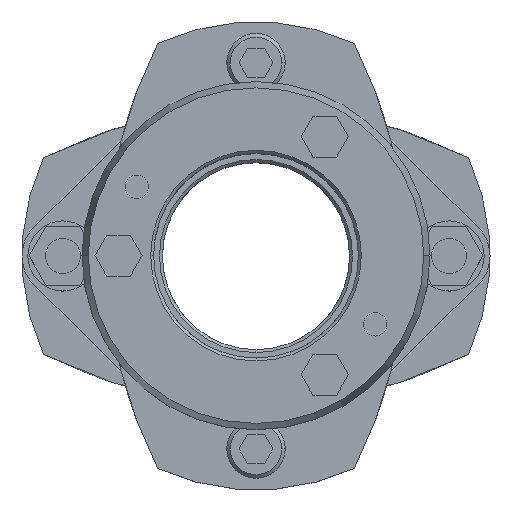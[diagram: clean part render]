
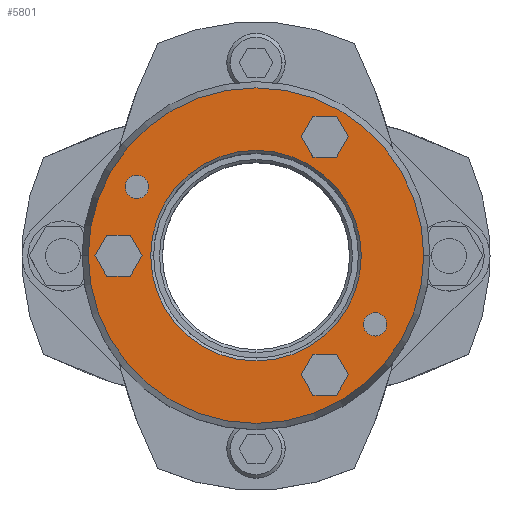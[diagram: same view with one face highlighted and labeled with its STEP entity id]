
A CAD part, top view. The second image highlights one B-rep face of the part: STEP entity #5801.
In plain terms, the highlighted planar face has unit normal (0, 0, 1).
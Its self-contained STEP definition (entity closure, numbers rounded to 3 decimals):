
#875=CARTESIAN_POINT('',(-18.,0.,35.875));
#876=VERTEX_POINT('',#875);
#892=CARTESIAN_POINT('',(18.,0.,35.875));
#893=VERTEX_POINT('',#892);
#900=CARTESIAN_POINT('',(0.,0.,35.875));
#901=DIRECTION('',(0.0,0.0,1.0));
#902=DIRECTION('',(-1.0,0.0,0.0));
#903=AXIS2_PLACEMENT_3D('',#900,#901,#902);
#904=CIRCLE('',#903,18.0);
#905=EDGE_CURVE('',#893,#876,#904,.T.);
#1063=CARTESIAN_POINT('',(28.678,0.,35.875));
#1064=VERTEX_POINT('',#1063);
#1071=CARTESIAN_POINT('',(-28.678,0.,35.875));
#1072=VERTEX_POINT('',#1071);
#1073=CARTESIAN_POINT('',(0.,0.,35.875));
#1074=DIRECTION('',(0.0,0.0,-1.0));
#1075=DIRECTION('',(1.0,0.0,0.0));
#1076=AXIS2_PLACEMENT_3D('',#1073,#1074,#1075);
#1077=CIRCLE('',#1076,28.678);
#1078=EDGE_CURVE('',#1064,#1072,#1077,.T.);
#1191=CARTESIAN_POINT('',(18.352,-11.75,35.875));
#1192=VERTEX_POINT('',#1191);
#1208=CARTESIAN_POINT('',(22.352,-11.75,35.875));
#1209=VERTEX_POINT('',#1208);
#1216=CARTESIAN_POINT('',(20.352,-11.75,35.875));
#1217=DIRECTION('',(0.0,0.0,-1.0));
#1218=DIRECTION('',(-1.0,0.0,0.0));
#1219=AXIS2_PLACEMENT_3D('',#1216,#1217,#1218);
#1220=CIRCLE('',#1219,2.0);
#1221=EDGE_CURVE('',#1192,#1209,#1220,.T.);
#1233=CARTESIAN_POINT('',(-22.352,11.75,35.875));
#1234=VERTEX_POINT('',#1233);
#1250=CARTESIAN_POINT('',(-18.352,11.75,35.875));
#1251=VERTEX_POINT('',#1250);
#1258=CARTESIAN_POINT('',(-20.352,11.75,35.875));
#1259=DIRECTION('',(0.0,0.0,-1.0));
#1260=DIRECTION('',(-1.0,0.0,0.0));
#1261=AXIS2_PLACEMENT_3D('',#1258,#1259,#1260);
#1262=CIRCLE('',#1261,2.0);
#1263=EDGE_CURVE('',#1234,#1251,#1262,.T.);
#4814=CARTESIAN_POINT('',(-20.352,11.75,35.875));
#4815=DIRECTION('',(0.0,0.0,-1.0));
#4816=DIRECTION('',(-1.0,0.0,0.0));
#4817=AXIS2_PLACEMENT_3D('',#4814,#4815,#4816);
#4818=CIRCLE('',#4817,2.0);
#4819=EDGE_CURVE('',#1251,#1234,#4818,.T.);
#4848=CARTESIAN_POINT('',(20.352,-11.75,35.875));
#4849=DIRECTION('',(0.0,0.0,-1.0));
#4850=DIRECTION('',(-1.0,0.0,0.0));
#4851=AXIS2_PLACEMENT_3D('',#4848,#4849,#4850);
#4852=CIRCLE('',#4851,2.0);
#4853=EDGE_CURVE('',#1209,#1192,#4852,.T.);
#4891=CARTESIAN_POINT('',(-27.541,0.,35.875));
#4892=VERTEX_POINT('',#4891);
#4899=CARTESIAN_POINT('',(-25.521,-3.5,35.875));
#4900=VERTEX_POINT('',#4899);
#4901=CARTESIAN_POINT('',(-25.521,-3.5,35.875));
#4902=DIRECTION('',(-0.5,0.866,0.0));
#4903=VECTOR('',#4902,4.041);
#4904=LINE('',#4901,#4903);
#4905=EDGE_CURVE('',#4900,#4892,#4904,.T.);
#4929=CARTESIAN_POINT('',(-25.521,3.5,35.875));
#4930=VERTEX_POINT('',#4929);
#4937=CARTESIAN_POINT('',(-27.541,0.,35.875));
#4938=DIRECTION('',(0.5,0.866,0.0));
#4939=VECTOR('',#4938,4.041);
#4940=LINE('',#4937,#4939);
#4941=EDGE_CURVE('',#4892,#4930,#4940,.T.);
#4960=CARTESIAN_POINT('',(-21.479,3.5,35.875));
#4961=VERTEX_POINT('',#4960);
#4968=CARTESIAN_POINT('',(-25.521,3.5,35.875));
#4969=DIRECTION('',(1.0,0.0,0.0));
#4970=VECTOR('',#4969,4.041);
#4971=LINE('',#4968,#4970);
#4972=EDGE_CURVE('',#4930,#4961,#4971,.T.);
#4991=CARTESIAN_POINT('',(-19.459,0.,35.875));
#4992=VERTEX_POINT('',#4991);
#4999=CARTESIAN_POINT('',(-21.479,3.5,35.875));
#5000=DIRECTION('',(0.5,-0.866,0.0));
#5001=VECTOR('',#5000,4.041);
#5002=LINE('',#4999,#5001);
#5003=EDGE_CURVE('',#4961,#4992,#5002,.T.);
#5022=CARTESIAN_POINT('',(-21.479,-3.5,35.875));
#5023=VERTEX_POINT('',#5022);
#5030=CARTESIAN_POINT('',(-19.459,0.,35.875));
#5031=DIRECTION('',(-0.5,-0.866,0.0));
#5032=VECTOR('',#5031,4.041);
#5033=LINE('',#5030,#5032);
#5034=EDGE_CURVE('',#4992,#5023,#5033,.T.);
#5052=CARTESIAN_POINT('',(-21.479,-3.5,35.875));
#5053=DIRECTION('',(-1.0,0.0,0.0));
#5054=VECTOR('',#5053,4.041);
#5055=LINE('',#5052,#5054);
#5056=EDGE_CURVE('',#5023,#4900,#5055,.T.);
#5091=CARTESIAN_POINT('',(7.709,20.352,35.875));
#5092=VERTEX_POINT('',#5091);
#5099=CARTESIAN_POINT('',(9.729,16.852,35.875));
#5100=VERTEX_POINT('',#5099);
#5101=CARTESIAN_POINT('',(9.729,16.852,35.875));
#5102=DIRECTION('',(-0.5,0.866,0.0));
#5103=VECTOR('',#5102,4.041);
#5104=LINE('',#5101,#5103);
#5105=EDGE_CURVE('',#5100,#5092,#5104,.T.);
#5129=CARTESIAN_POINT('',(9.729,23.852,35.875));
#5130=VERTEX_POINT('',#5129);
#5137=CARTESIAN_POINT('',(7.709,20.352,35.875));
#5138=DIRECTION('',(0.5,0.866,0.0));
#5139=VECTOR('',#5138,4.041);
#5140=LINE('',#5137,#5139);
#5141=EDGE_CURVE('',#5092,#5130,#5140,.T.);
#5160=CARTESIAN_POINT('',(13.771,23.852,35.875));
#5161=VERTEX_POINT('',#5160);
#5168=CARTESIAN_POINT('',(9.729,23.852,35.875));
#5169=DIRECTION('',(1.0,0.0,0.0));
#5170=VECTOR('',#5169,4.041);
#5171=LINE('',#5168,#5170);
#5172=EDGE_CURVE('',#5130,#5161,#5171,.T.);
#5191=CARTESIAN_POINT('',(15.791,20.352,35.875));
#5192=VERTEX_POINT('',#5191);
#5199=CARTESIAN_POINT('',(13.771,23.852,35.875));
#5200=DIRECTION('',(0.5,-0.866,0.0));
#5201=VECTOR('',#5200,4.041);
#5202=LINE('',#5199,#5201);
#5203=EDGE_CURVE('',#5161,#5192,#5202,.T.);
#5222=CARTESIAN_POINT('',(13.771,16.852,35.875));
#5223=VERTEX_POINT('',#5222);
#5230=CARTESIAN_POINT('',(15.791,20.352,35.875));
#5231=DIRECTION('',(-0.5,-0.866,0.0));
#5232=VECTOR('',#5231,4.041);
#5233=LINE('',#5230,#5232);
#5234=EDGE_CURVE('',#5192,#5223,#5233,.T.);
#5252=CARTESIAN_POINT('',(13.771,16.852,35.875));
#5253=DIRECTION('',(-1.0,0.0,0.0));
#5254=VECTOR('',#5253,4.041);
#5255=LINE('',#5252,#5254);
#5256=EDGE_CURVE('',#5223,#5100,#5255,.T.);
#5291=CARTESIAN_POINT('',(7.709,-20.352,35.875));
#5292=VERTEX_POINT('',#5291);
#5299=CARTESIAN_POINT('',(9.729,-23.852,35.875));
#5300=VERTEX_POINT('',#5299);
#5301=CARTESIAN_POINT('',(9.729,-23.852,35.875));
#5302=DIRECTION('',(-0.5,0.866,0.0));
#5303=VECTOR('',#5302,4.041);
#5304=LINE('',#5301,#5303);
#5305=EDGE_CURVE('',#5300,#5292,#5304,.T.);
#5329=CARTESIAN_POINT('',(9.729,-16.852,35.875));
#5330=VERTEX_POINT('',#5329);
#5337=CARTESIAN_POINT('',(7.709,-20.352,35.875));
#5338=DIRECTION('',(0.5,0.866,0.0));
#5339=VECTOR('',#5338,4.041);
#5340=LINE('',#5337,#5339);
#5341=EDGE_CURVE('',#5292,#5330,#5340,.T.);
#5360=CARTESIAN_POINT('',(13.771,-16.852,35.875));
#5361=VERTEX_POINT('',#5360);
#5368=CARTESIAN_POINT('',(9.729,-16.852,35.875));
#5369=DIRECTION('',(1.0,0.0,0.0));
#5370=VECTOR('',#5369,4.041);
#5371=LINE('',#5368,#5370);
#5372=EDGE_CURVE('',#5330,#5361,#5371,.T.);
#5391=CARTESIAN_POINT('',(15.791,-20.352,35.875));
#5392=VERTEX_POINT('',#5391);
#5399=CARTESIAN_POINT('',(13.771,-16.852,35.875));
#5400=DIRECTION('',(0.5,-0.866,0.0));
#5401=VECTOR('',#5400,4.041);
#5402=LINE('',#5399,#5401);
#5403=EDGE_CURVE('',#5361,#5392,#5402,.T.);
#5422=CARTESIAN_POINT('',(13.771,-23.852,35.875));
#5423=VERTEX_POINT('',#5422);
#5430=CARTESIAN_POINT('',(15.791,-20.352,35.875));
#5431=DIRECTION('',(-0.5,-0.866,0.0));
#5432=VECTOR('',#5431,4.041);
#5433=LINE('',#5430,#5432);
#5434=EDGE_CURVE('',#5392,#5423,#5433,.T.);
#5452=CARTESIAN_POINT('',(13.771,-23.852,35.875));
#5453=DIRECTION('',(-1.0,0.0,0.0));
#5454=VECTOR('',#5453,4.041);
#5455=LINE('',#5452,#5454);
#5456=EDGE_CURVE('',#5423,#5300,#5455,.T.);
#5740=CARTESIAN_POINT('',(0.,0.,35.875));
#5741=DIRECTION('',(0.0,0.0,-1.0));
#5742=DIRECTION('',(1.0,0.0,0.0));
#5743=AXIS2_PLACEMENT_3D('',#5740,#5741,#5742);
#5744=CIRCLE('',#5743,28.678);
#5745=EDGE_CURVE('',#1072,#1064,#5744,.T.);
#5750=CARTESIAN_POINT('',(-2.364,0.,35.875));
#5751=DIRECTION('',(0.0,0.0,1.0));
#5752=DIRECTION('',(-1.0,0.0,0.0));
#5753=AXIS2_PLACEMENT_3D('',#5750,#5751,#5752);
#5754=PLANE('',#5753);
#5755=ORIENTED_EDGE('',*,*,#5745,.F.);
#5756=ORIENTED_EDGE('',*,*,#1078,.F.);
#5757=EDGE_LOOP('',(#5755,#5756));
#5758=FACE_OUTER_BOUND('',#5757,.T.);
#5759=ORIENTED_EDGE('',*,*,#1263,.T.);
#5760=ORIENTED_EDGE('',*,*,#4819,.T.);
#5761=EDGE_LOOP('',(#5759,#5760));
#5762=FACE_BOUND('',#5761,.T.);
#5763=ORIENTED_EDGE('',*,*,#1221,.T.);
#5764=ORIENTED_EDGE('',*,*,#4853,.T.);
#5765=EDGE_LOOP('',(#5763,#5764));
#5766=FACE_BOUND('',#5765,.T.);
#5767=ORIENTED_EDGE('',*,*,#4905,.T.);
#5768=ORIENTED_EDGE('',*,*,#4941,.T.);
#5769=ORIENTED_EDGE('',*,*,#4972,.T.);
#5770=ORIENTED_EDGE('',*,*,#5003,.T.);
#5771=ORIENTED_EDGE('',*,*,#5034,.T.);
#5772=ORIENTED_EDGE('',*,*,#5056,.T.);
#5773=EDGE_LOOP('',(#5767,#5768,#5769,#5770,#5771,#5772));
#5774=FACE_BOUND('',#5773,.T.);
#5775=ORIENTED_EDGE('',*,*,#5105,.T.);
#5776=ORIENTED_EDGE('',*,*,#5141,.T.);
#5777=ORIENTED_EDGE('',*,*,#5172,.T.);
#5778=ORIENTED_EDGE('',*,*,#5203,.T.);
#5779=ORIENTED_EDGE('',*,*,#5234,.T.);
#5780=ORIENTED_EDGE('',*,*,#5256,.T.);
#5781=EDGE_LOOP('',(#5775,#5776,#5777,#5778,#5779,#5780));
#5782=FACE_BOUND('',#5781,.T.);
#5783=ORIENTED_EDGE('',*,*,#5305,.T.);
#5784=ORIENTED_EDGE('',*,*,#5341,.T.);
#5785=ORIENTED_EDGE('',*,*,#5372,.T.);
#5786=ORIENTED_EDGE('',*,*,#5403,.T.);
#5787=ORIENTED_EDGE('',*,*,#5434,.T.);
#5788=ORIENTED_EDGE('',*,*,#5456,.T.);
#5789=EDGE_LOOP('',(#5783,#5784,#5785,#5786,#5787,#5788));
#5790=FACE_BOUND('',#5789,.T.);
#5791=ORIENTED_EDGE('',*,*,#905,.F.);
#5792=CARTESIAN_POINT('',(0.,0.,35.875));
#5793=DIRECTION('',(0.0,0.0,1.0));
#5794=DIRECTION('',(-1.0,0.0,0.0));
#5795=AXIS2_PLACEMENT_3D('',#5792,#5793,#5794);
#5796=CIRCLE('',#5795,18.0);
#5797=EDGE_CURVE('',#876,#893,#5796,.T.);
#5798=ORIENTED_EDGE('',*,*,#5797,.F.);
#5799=EDGE_LOOP('',(#5791,#5798));
#5800=FACE_BOUND('',#5799,.T.);
#5801=ADVANCED_FACE('',(#5758,#5762,#5766,#5774,#5782,#5790,#5800),#5754,.T.);
